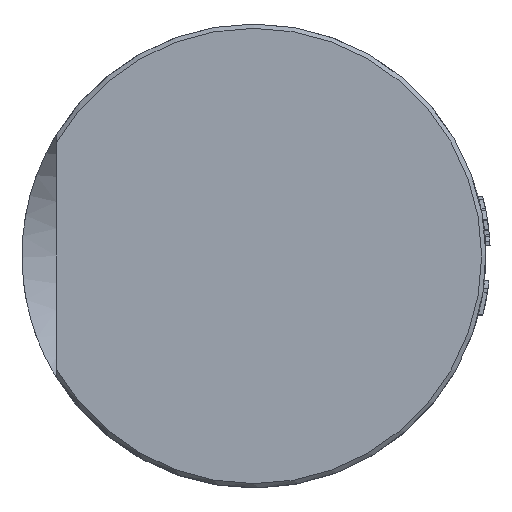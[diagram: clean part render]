
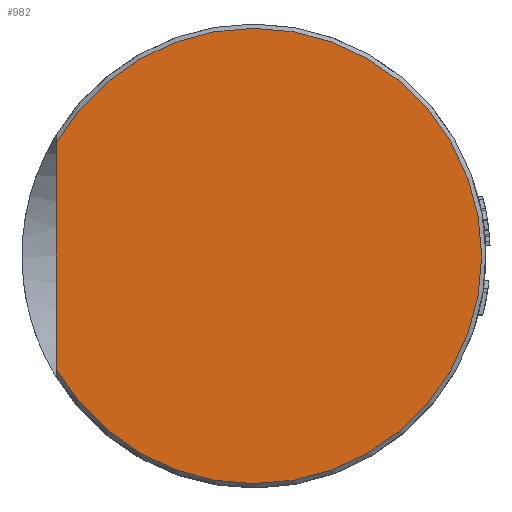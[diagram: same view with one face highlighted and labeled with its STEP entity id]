
A CAD part, front view. The second image highlights one B-rep face of the part: STEP entity #982.
In plain terms, the highlighted planar face has unit normal (0, -1, 0).
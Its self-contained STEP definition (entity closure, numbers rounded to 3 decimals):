
#271=CIRCLE('',#6430,26.5);
#561=PLANE('',#6432);
#691=LINE('',#26700,#1351);
#982=ADVANCED_FACE('',(#1646),#561,.T.);
#1351=VECTOR('',#7325,1.);
#1646=FACE_OUTER_BOUND('',#2009,.T.);
#2009=EDGE_LOOP('',(#3415,#3416));
#3415=ORIENTED_EDGE('',*,*,#5316,.F.);
#3416=ORIENTED_EDGE('',*,*,#5313,.T.);
#4455=VERTEX_POINT('',#26689);
#4456=VERTEX_POINT('',#26690);
#5313=EDGE_CURVE('',#4455,#4456,#271,.T.);
#5316=EDGE_CURVE('',#4455,#4456,#691,.T.);
#6430=AXIS2_PLACEMENT_3D('',#26688,#7321,#7322);
#6432=AXIS2_PLACEMENT_3D('',#26701,#7326,#7327);
#7321=DIRECTION('',(0.,-1.,0.));
#7322=DIRECTION('',(0.,0.,-1.));
#7325=DIRECTION('',(0.,0.,1.));
#7326=DIRECTION('',(0.,-1.,0.));
#7327=DIRECTION('',(0.,0.,1.));
#26688=CARTESIAN_POINT('',(0.,-43.5,0.));
#26689=CARTESIAN_POINT('',(-23.,-43.5,-13.162));
#26690=CARTESIAN_POINT('',(-23.,-43.5,13.162));
#26700=CARTESIAN_POINT('',(-23.,-43.5,0.));
#26701=CARTESIAN_POINT('',(27.,-43.5,0.));
